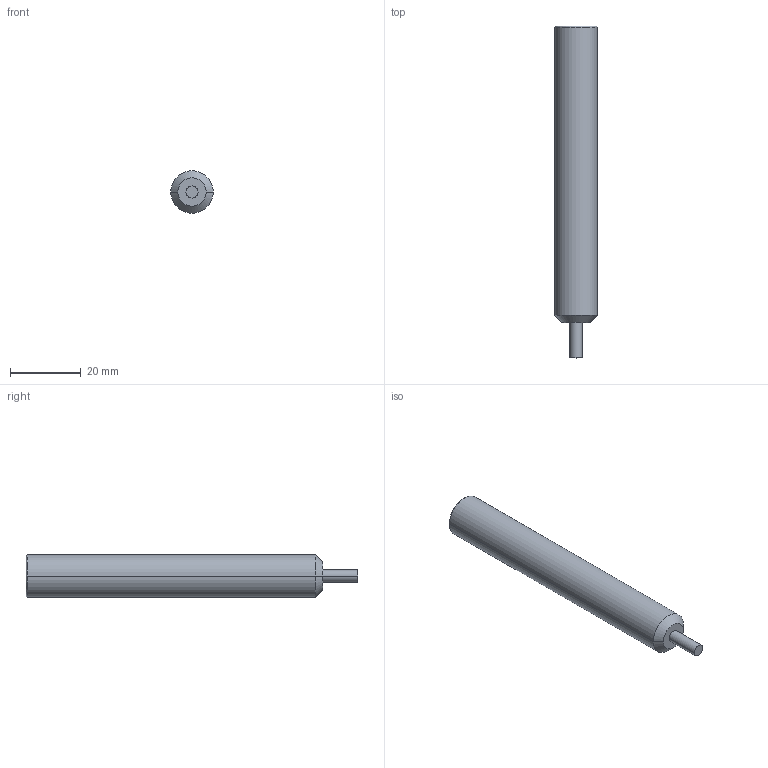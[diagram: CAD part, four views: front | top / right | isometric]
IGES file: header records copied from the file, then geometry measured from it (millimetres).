
Start section:  PTC IGES file: pole_83_6.igs
Global section: file name: pole_83_6.igs; native system: Creo Elements/Pro by Parametric Technology Corporation; preprocessor: 2010480; author: asus; organization: Unknown; date: 20121101.190932; units: millimetre
Bounding box: 12 x 93.6 x 12 mm (x, y, z)
Volume: 9386.2 mm3; surface area: 3535.4 mm2
Topology: 1 solids, 1 shells, 14 faces, 26 edges, 16 vertices
Faces by surface type: revolution 10, bspline 4
